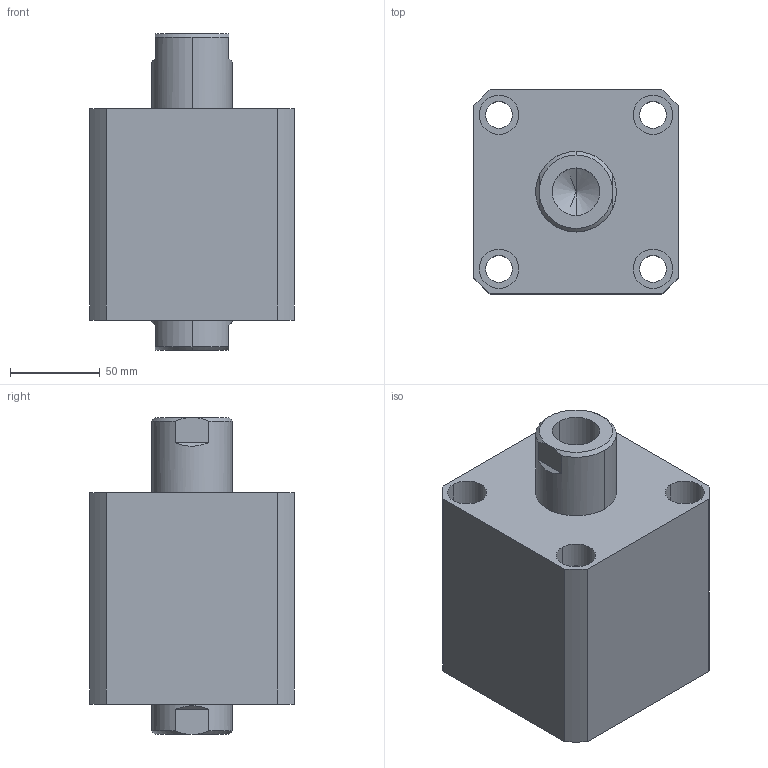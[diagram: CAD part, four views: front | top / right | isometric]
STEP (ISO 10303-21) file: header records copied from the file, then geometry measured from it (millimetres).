
FILE_DESCRIPTION (( 'STEP AP214' ), '1' );
FILE_NAME ('chtb-sw80x25n_asm.STEP', '2018-05-28T00:45:57', ( 'Windows' ), ( 'Microsoft' ), 'SwSTEP 2.0', 'SolidWorks 2015', '' );
FILE_SCHEMA (( 'AUTOMOTIVE_DESIGN' ));
Length unit declared in the file: millimetre
Products named in the file (4): CHTB-SW80X25NBT; CHTB-SD80X25NHSG; CHTB-SD80QG; chtb-sw80x25n_asm
Assembly tree (3 placements, depth 2):
  chtb-sw80x25n_asm
    CHTB-SD80QG
    CHTB-SD80X25NHSG
    CHTB-SW80X25NBT
Bounding box: 114 x 114 x 177 mm (x, y, z)
Volume: 1349940.7 mm3; surface area: 198675.1 mm2
Topology: 3 solids, 3 shells, 208 faces, 550 edges, 365 vertices
Faces by surface type: cylinder 109, plane 42, cone 25, torus 18, bspline 14
Entity records: 15645 total; most frequent: CARTESIAN_POINT 10539, ORIENTED_EDGE 1084, DIRECTION 970, EDGE_CURVE 542, AXIS2_PLACEMENT_3D 407, VERTEX_POINT 365, EDGE_LOOP 249, ADVANCED_FACE 208
